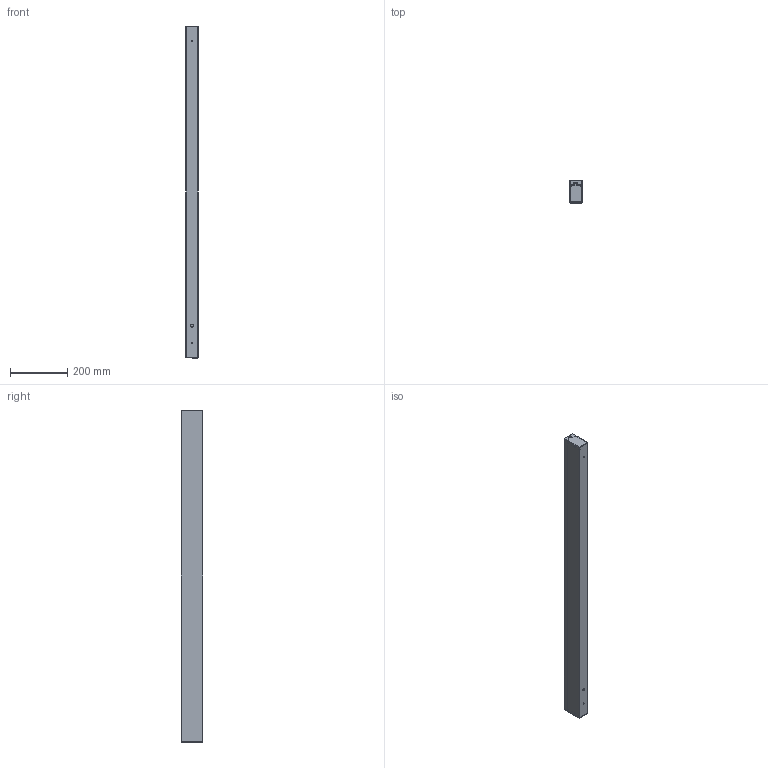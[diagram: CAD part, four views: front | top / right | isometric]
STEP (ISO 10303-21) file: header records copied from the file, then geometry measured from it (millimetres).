
FILE_DESCRIPTION (( 'STEP AP214' ), '1' );
FILE_NAME ('LINE RP-RF 24.STEP', '2017-08-23T09:37:23', ( 'Ofitecnic3' ), ( 'Microsoft' ), 'SwSTEP 2.0', 'SolidWorks 2016', '' );
FILE_SCHEMA (( 'AUTOMOTIVE_DESIGN' ));
Length unit declared in the file: millimetre
Products named in the file (4): LINE RP-RF 24; Difusor plástico-BIM_LED-1150mm; Tapa (LineR)-BIM; Perfil_extrusion (LineR)-BIM_LR2016-1150
Assembly tree (4 placements, depth 2):
  LINE RP-RF 24
    Perfil_extrusion (LineR)-BIM_LR2016-1150
    Tapa (LineR)-BIM  x2
    Difusor plástico-BIM_LED-1150mm
Bounding box: 42.5 x 74.75 x 1155 mm (x, y, z)
Volume: 503188.4 mm3; surface area: 565217.8 mm2
Topology: 4 solids, 4 shells, 425 faces, 1049 edges, 650 vertices
Faces by surface type: plane 182, cylinder 157, bspline 82, sphere 4
Entity records: 8685 total; most frequent: CARTESIAN_POINT 3302, ORIENTED_EDGE 1180, DIRECTION 969, EDGE_CURVE 590, VERTEX_POINT 370, LINE 355, VECTOR 355, AXIS2_PLACEMENT_3D 307
